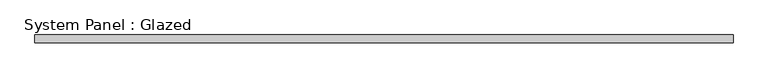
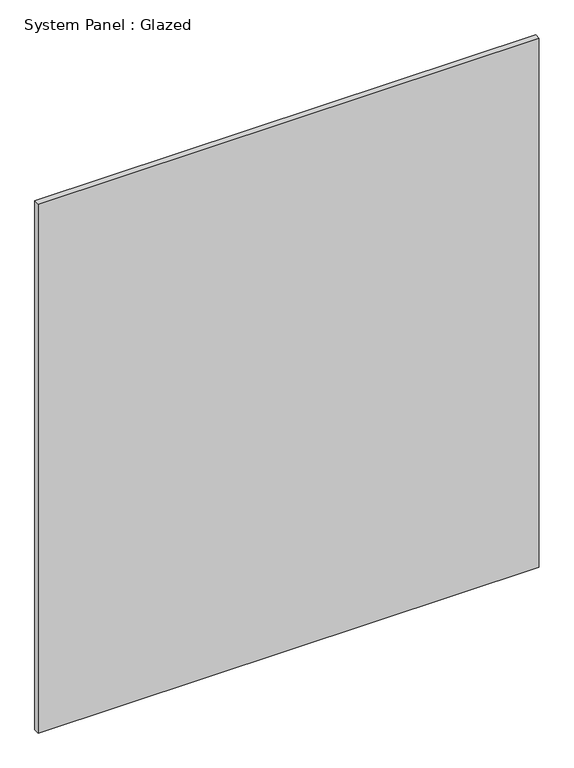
"""IFC4 building model written with IfcOpenShell, lengths in millimetres: plate geometry, System Panel : Glazed."""

from ifc_helpers import new_model, si_unit, origin, origin_with_axes, place, context, project, spatial, polyline, outline, extrude, source, transform, mapped, element, save


def system_panel_glazed_34dd8236(model_context):
    return source(origin(), model_context, "Body", "SweptSolid", [
        extrude(outline(polyline([(1153.3070958, 19.05), (-1153.3070958, 19.05), (-1153.3070958, 44.45), (1153.3070958, 44.45), (1153.3070958, 19.05)])), origin_with_axes(), (0.0, 0.0, 1.0), 2573.8666667),
    ])


if __name__ == "__main__":
    model = new_model("IFC4")
    model_context = context("Model", 3, world=origin())
    ifc_project = project(units=[si_unit("LENGTHUNIT", "METRE", prefix="MILLI")], contexts=[model_context])
    site = spatial("IfcSite", under=ifc_project)
    building = spatial("IfcBuilding", under=site)
    placement = place(None, origin())
    system_panel_glazed_shape = system_panel_glazed_34dd8236(model_context)
    element("IfcPlate", 1, ObjectType="System Panel : Glazed", at=placement, inside=building, context=model_context, shape_type="MappedRepresentation", body=[
        mapped(system_panel_glazed_shape, transform((0.0, 0.0, 0.0), x_axis=(1.0, 0.0, 0.0), y_axis=(0.0, 1.0, 0.0), z_axis=(0.0, 0.0, 1.0))),
    ])
    save(model, "model.ifc")
